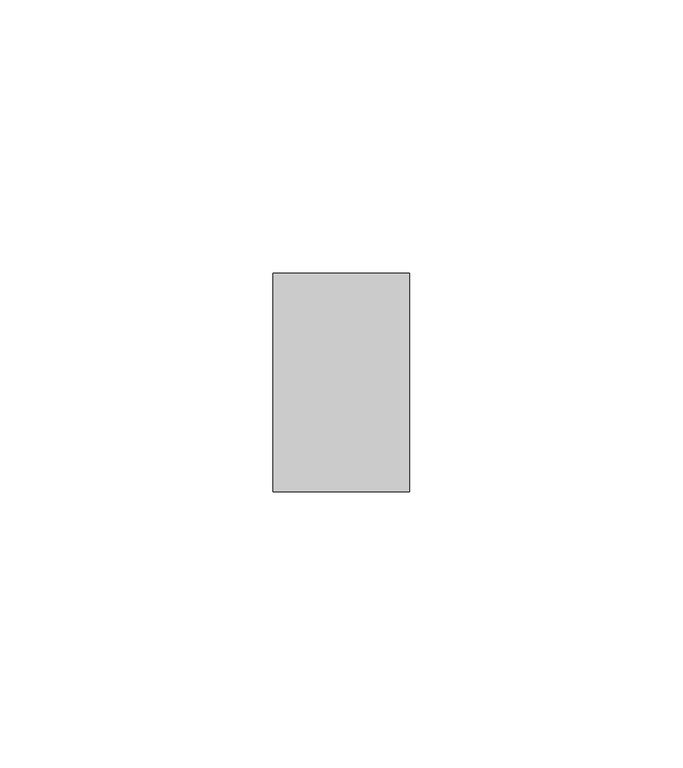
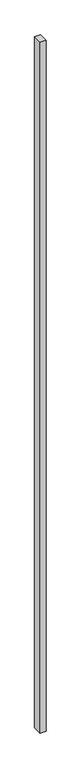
"""IFC4 building model written with IfcOpenShell, lengths in millimetres: plate geometry, Vitré."""

import ifcopenshell
import ifcopenshell.guid

model = None  # the IFC model being written
_history = None  # IfcOwnerHistory: only IFC2X3 demands one
_inside = {}  # id of a spatial element -> (the spatial element, [elements in it])
_under = {}  # id of a project, library or spatial element -> (it, [spatial elements below it])
_declared = {}  # id of a project -> (the project, [libraries it declares])
_typed = {}  # id of a type object -> (the type object, [elements of that type])
_made_of = {}  # id of a material, layer set ... -> (it, [elements and type objects made of it])


def new_model(schema):
    """Start an empty IFC model of exactly this schema.

    Asked for "IFC4X3", IfcOpenShell would pick the latest addendum, in which some entities
    have other attributes; the version numbers below select the first issue.
    IFC2X3 requires an IfcOwnerHistory on every rooted entity: one is made here for all.
    """
    global model, _history
    if schema == "IFC4X3":
        model = ifcopenshell.file(schema_version=(4, 3, 0, 0))
    else:
        model = ifcopenshell.file(schema=schema)
    _inside.clear()
    _under.clear()
    _declared.clear()
    _typed.clear()
    _made_of.clear()
    _history = None
    if model.schema == "IFC2X3":
        org = make("IfcOrganization", Name="unknown")
        user = make(
            "IfcPersonAndOrganization",
            ThePerson=make("IfcPerson", FamilyName="unknown"),
            TheOrganization=org,
        )
        app = make(
            "IfcApplication",
            ApplicationDeveloper=org,
            Version="unknown",
            ApplicationFullName="unknown",
            ApplicationIdentifier="unknown",
        )
        _history = make(
            "IfcOwnerHistory",
            OwningUser=user,
            OwningApplication=app,
            ChangeAction="ADDED",
            CreationDate=0,
        )
    return model


def make(cls, **values):
    """One entity of the class cls with the attributes given. An attribute that is None is left unset."""
    return model.create_entity(
        cls, **{name: value for name, value in values.items() if value is not None}
    )


def rooted(cls, **values):
    """An entity with a GlobalId (a new one), such as an element, a storey or a relation."""
    return make(cls, GlobalId=ifcopenshell.guid.new(), OwnerHistory=_history, **values)


def si_unit(unit_type, name, prefix=None):
    """IfcSIUnit, for example si_unit("LENGTHUNIT", "METRE", prefix="MILLI")."""
    return make("IfcSIUnit", UnitType=unit_type, Prefix=prefix, Name=name)


def assignment(units):
    """IfcUnitAssignment: the units of a project."""
    return None if units is None else make("IfcUnitAssignment", Units=units)


def point(xyz):
    """IfcCartesianPoint."""
    return None if xyz is None else make("IfcCartesianPoint", Coordinates=xyz)


def direction(xyz):
    """IfcDirection."""
    return None if xyz is None else make("IfcDirection", DirectionRatios=xyz)


def frame(location, z_axis=None, x_axis=None):
    """IfcAxis2Placement3D, a coordinate frame: its origin and axes. An axis left out is left unset."""
    return make(
        "IfcAxis2Placement3D",
        Location=point(location),
        Axis=direction(z_axis),
        RefDirection=direction(x_axis),
    )


def origin():
    """The frame at (0, 0, 0) with its axes left unset."""
    return frame((0.0, 0.0, 0.0))


def origin_with_axes():
    """The frame at (0, 0, 0) with the z axis (0, 0, 1) and the x axis (1, 0, 0) written out."""
    return frame((0.0, 0.0, 0.0), z_axis=(0.0, 0.0, 1.0), x_axis=(1.0, 0.0, 0.0))


def place(relative_to, where):
    """IfcLocalPlacement: puts the frame where relative to a parent placement (None: the world)."""
    return make(
        "IfcLocalPlacement", PlacementRelTo=relative_to, RelativePlacement=where
    )


def context(
    kind, dimensions, precision=None, world=None, true_north=None, identifier=None
):
    """IfcGeometricRepresentationContext, for example the 3D "Model" context."""
    return make(
        "IfcGeometricRepresentationContext",
        ContextIdentifier=identifier,
        ContextType=kind,
        CoordinateSpaceDimension=dimensions,
        Precision=precision,
        WorldCoordinateSystem=world,
        TrueNorth=true_north,
    )


def project(units=None, contexts=None):
    """IfcProject with its units and contexts."""
    return rooted(
        "IfcProject",
        Name="project",
        RepresentationContexts=contexts,
        UnitsInContext=assignment(units),
    )


def spatial(cls, under=None, at=None, **own):
    """A site, building, storey or space (cls), placed at a placement, below another one or the project."""
    s = rooted(cls, ObjectPlacement=at, **own)
    if under is not None:
        _under.setdefault(under.id(), (under, []))[1].append(s)
    return s


def polyline(points):
    """IfcPolyline through the points."""
    return make("IfcPolyline", Points=[point(p) for p in points])


def outline(outer, holes=None, kind="AREA"):
    """IfcArbitraryClosedProfileDef: a profile drawn as a closed curve; with holes, ...WithVoids."""
    if holes is None:
        return make("IfcArbitraryClosedProfileDef", ProfileType=kind, OuterCurve=outer)
    return make(
        "IfcArbitraryProfileDefWithVoids",
        ProfileType=kind,
        OuterCurve=outer,
        InnerCurves=holes,
    )


def extrude(swept, where, along, depth):
    """IfcExtrudedAreaSolid: the profile swept, set in the frame where, extruded along a direction by depth."""
    return make(
        "IfcExtrudedAreaSolid",
        SweptArea=swept,
        Position=where,
        ExtrudedDirection=direction(along),
        Depth=depth,
    )


def shape(context_of_items, identifier, shape_type, items):
    """IfcShapeRepresentation: the items that make up one representation, for example the "Body"."""
    return make(
        "IfcShapeRepresentation",
        ContextOfItems=context_of_items,
        RepresentationIdentifier=identifier,
        RepresentationType=shape_type,
        Items=items,
    )


def source(mapping_origin, context_of_items, identifier, shape_type, items):
    """IfcRepresentationMap: a shape defined once, which mapped items show again and again."""
    return make(
        "IfcRepresentationMap",
        MappingOrigin=mapping_origin,
        MappedRepresentation=shape(context_of_items, identifier, shape_type, items),
    )


def transform(
    local_origin,
    x_axis=None,
    y_axis=None,
    z_axis=None,
    scale=None,
    scale2=None,
    scale3=None,
    uniform=True,
):
    """IfcCartesianTransformationOperator3D, or its non-uniform kind. x_axis, y_axis, z_axis: its Axis1, 2, 3."""
    if uniform:
        return make(
            "IfcCartesianTransformationOperator3D",
            Axis1=direction(x_axis),
            Axis2=direction(y_axis),
            LocalOrigin=point(local_origin),
            Scale=scale,
            Axis3=direction(z_axis),
        )
    return make(
        "IfcCartesianTransformationOperator3DnonUniform",
        Axis1=direction(x_axis),
        Axis2=direction(y_axis),
        LocalOrigin=point(local_origin),
        Scale=scale,
        Axis3=direction(z_axis),
        Scale2=scale2,
        Scale3=scale3,
    )


def mapped(mapping_source, mapping_target):
    """IfcMappedItem: shows the shape of a source again, moved by a transform."""
    return make(
        "IfcMappedItem", MappingSource=mapping_source, MappingTarget=mapping_target
    )


def made_of(thing, what):
    """Note that an element or type object is made of a material, layer set ...; save() writes the relation."""
    if what is not None:
        _made_of.setdefault(what.id(), (what, []))[1].append(thing)
    return thing


def element(
    cls,
    number,
    at=None,
    inside=None,
    cuts=None,
    type_object=None,
    material=None,
    context=None,
    identifier="Body",
    shape_type=None,
    held_by="IfcProductDefinitionShape",
    body=None,
    shapes=None,
    **own,
):
    """One element of the class cls, such as IfcWall. Its Tag is "e" and its number.

    at: its placement. inside: the storey or other place that contains it. cuts: it is an
    opening in that element (IfcRelVoidsElement). A single representation is given by context,
    identifier, shape_type and body (its items); several are given by shapes. held_by: the class
    of the entity that holds the representations. save() writes the other relations.
    """
    e = rooted(cls, Tag="e%d" % number, ObjectPlacement=at, **own)
    if body is not None:
        shapes = [shape(context, identifier, shape_type, body)]
    if shapes is not None:
        e.Representation = make(held_by, Representations=shapes)
    if inside is not None:
        _inside.setdefault(inside.id(), (inside, []))[1].append(e)
    if cuts is not None:
        rooted(
            "IfcRelVoidsElement", RelatingBuildingElement=cuts, RelatedOpeningElement=e
        )
    if type_object is not None:
        _typed.setdefault(type_object.id(), (type_object, []))[1].append(e)
    return made_of(e, material)


def aggregate(whole, parts):
    """IfcRelAggregates: a whole, such as a stair, and the parts it consists of."""
    return rooted("IfcRelAggregates", RelatingObject=whole, RelatedObjects=parts)


def save(model, path):
    """Write the relations noted so far, then the file.

    IfcRelAggregates (storeys below a building ...), IfcRelContainedInSpatialStructure (elements
    in a storey), IfcRelDefinesByType, IfcRelAssociatesMaterial and IfcRelDeclares: one each for
    every whole, place, type object, material and project.
    """
    for whole, parts in _under.values():
        aggregate(whole, parts)
    for where, things in _inside.values():
        rooted(
            "IfcRelContainedInSpatialStructure",
            RelatedElements=things,
            RelatingStructure=where,
        )
    for kind, things in _typed.values():
        rooted("IfcRelDefinesByType", RelatedObjects=things, RelatingType=kind)
    for what, things in _made_of.values():
        rooted("IfcRelAssociatesMaterial", RelatedObjects=things, RelatingMaterial=what)
    for by, libraries in _declared.values():
        rooted("IfcRelDeclares", RelatingContext=by, RelatedDefinitions=libraries)
    model.write(path)


def plate_7f40a636(model_context):
    return source(origin(), model_context, "Body", "SweptSolid", [
        extrude(outline(polyline([(-12.5, -20.0), (-12.5, 20.0), (12.5, 20.0), (12.5, -20.0), (-12.5, -20.0)])), origin_with_axes(), (0.0, 0.0, 1.0), 3130.0),
    ])


if __name__ == "__main__":
    model = new_model("IFC4")
    model_context = context("Model", 3, world=origin())
    ifc_project = project(units=[si_unit("LENGTHUNIT", "METRE", prefix="MILLI")], contexts=[model_context])
    site = spatial("IfcSite", under=ifc_project)
    building = spatial("IfcBuilding", under=site)
    placement = place(None, origin())
    plate_shape = plate_7f40a636(model_context)
    element("IfcPlate", 1, ObjectType="Vitré", at=placement, inside=building, context=model_context, shape_type="MappedRepresentation", body=[
        mapped(plate_shape, transform((0.0, 0.0, 0.0), x_axis=(1.0, 0.0, 0.0), y_axis=(0.0, 1.0, 0.0), z_axis=(0.0, 0.0, 1.0))),
    ])
    save(model, "model.ifc")
